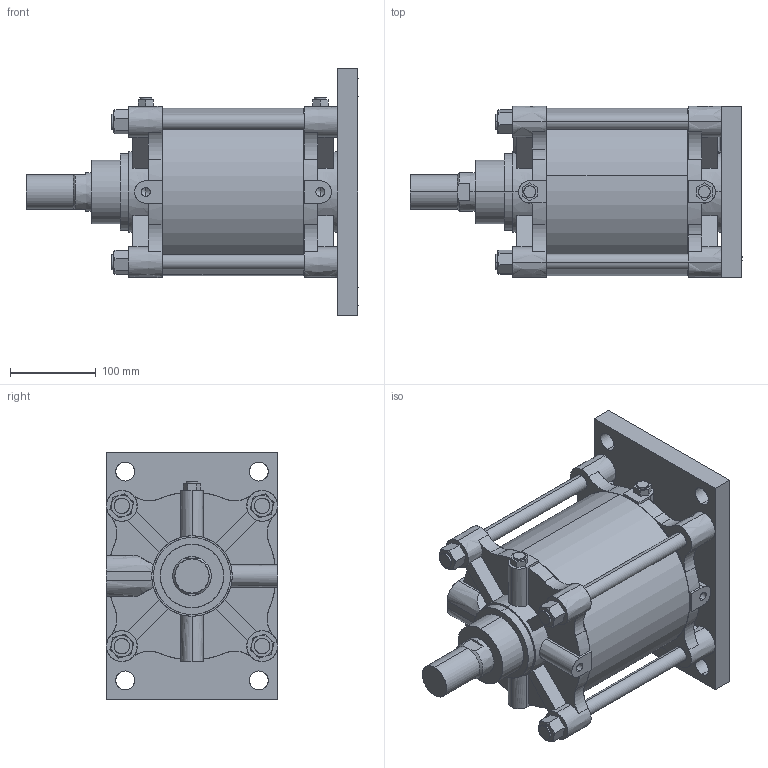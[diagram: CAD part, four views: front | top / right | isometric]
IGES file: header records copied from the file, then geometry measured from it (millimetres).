
Start section: SolidWorks IGES file using analytic representation for surfaces
Global section: file name: C:\Users\Toshiba\Desktop\A##2-180#-100-B.IGS; native system: SolidWorks 2014; preprocessor: SolidWorks 2014; author: Toshiba; date: 160331.145744; units: millimetre
Bounding box: 388 x 200 x 288 mm (x, y, z)
Surface area: 657539.7 mm2 (no closed solid volume)
Topology: 0 solids, 0 shells, 344 faces, 6797 edges, 6785 vertices
Faces by surface type: bspline 196, revolution 148
